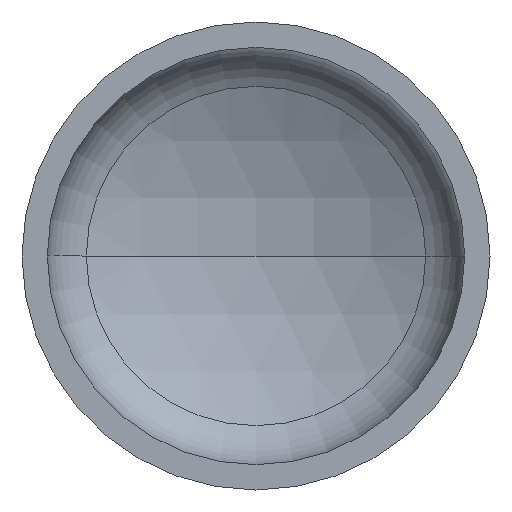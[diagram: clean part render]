
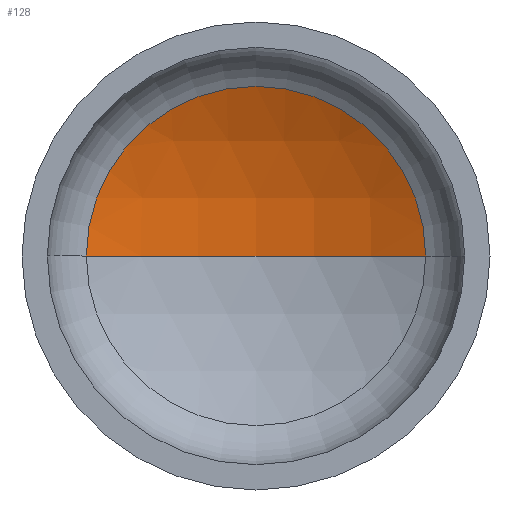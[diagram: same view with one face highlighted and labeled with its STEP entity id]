
A CAD part, front view. The second image highlights one B-rep face of the part: STEP entity #128.
In plain terms, the highlighted spherical face has radius 325 mm.
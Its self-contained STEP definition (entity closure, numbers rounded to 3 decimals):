
#9 = ORIENTED_EDGE ( 'NONE', *, *, #364, .T. ) ;
#13 = AXIS2_PLACEMENT_3D ( 'NONE', #259, #179, #175 ) ;
#17 = EDGE_LOOP ( 'NONE', ( #73, #57, #9 ) ) ;
#26 = AXIS2_PLACEMENT_3D ( 'NONE', #171, #165, #168 ) ;
#34 = VERTEX_POINT ( 'NONE', #366 ) ;
#38 = AXIS2_PLACEMENT_3D ( 'NONE', #394, #180, #118 ) ;
#57 = ORIENTED_EDGE ( 'NONE', *, *, #343, .T. ) ;
#61 = VERTEX_POINT ( 'NONE', #249 ) ;
#73 = ORIENTED_EDGE ( 'NONE', *, *, #352, .F. ) ;
#88 = AXIS2_PLACEMENT_3D ( 'NONE', #230, #344, #312 ) ;
#106 = VERTEX_POINT ( 'NONE', #229 ) ;
#118 = DIRECTION ( 'NONE',  ( -1., 0., 0. ) ) ;
#128 = ADVANCED_FACE ( 'NONE', ( #328 ), #267, .F. ) ;
#165 = DIRECTION ( 'NONE',  ( 0., 0., 1. ) ) ;
#168 = DIRECTION ( 'NONE',  ( 1., 0., 0. ) ) ;
#171 = CARTESIAN_POINT ( 'NONE',  ( 0., -164.436, 0. ) ) ;
#175 = DIRECTION ( 'NONE',  ( 1., 0., 0. ) ) ;
#179 = DIRECTION ( 'NONE',  ( 0., -1., 0. ) ) ;
#180 = DIRECTION ( 'NONE',  ( 0., 0., -1. ) ) ;
#228 = CIRCLE ( 'NONE', #26, 325. ) ;
#229 = CARTESIAN_POINT ( 'NONE',  ( -147.3, 125.266, 0. ) ) ;
#230 = CARTESIAN_POINT ( 'NONE',  ( 0., -164.436, 0. ) ) ;
#249 = CARTESIAN_POINT ( 'NONE',  ( 147.3, 125.266, 0. ) ) ;
#259 = CARTESIAN_POINT ( 'NONE',  ( 0., 125.266, 0. ) ) ;
#267 = SPHERICAL_SURFACE ( 'NONE', #88, 325. ) ;
#295 = CIRCLE ( 'NONE', #38, 325. ) ;
#300 = CIRCLE ( 'NONE', #13, 147.3 ) ;
#312 = DIRECTION ( 'NONE',  ( -1., 0., 0. ) ) ;
#328 = FACE_OUTER_BOUND ( 'NONE', #17, .T. ) ;
#343 = EDGE_CURVE ( 'NONE', #34, #61, #295, .T. ) ;
#344 = DIRECTION ( 'NONE',  ( 0., 0., -1. ) ) ;
#352 = EDGE_CURVE ( 'NONE', #34, #106, #228, .T. ) ;
#364 = EDGE_CURVE ( 'NONE', #61, #106, #300, .T. ) ;
#366 = CARTESIAN_POINT ( 'NONE',  ( 0., 160.564, 0. ) ) ;
#394 = CARTESIAN_POINT ( 'NONE',  ( 0., -164.436, 0. ) ) ;
